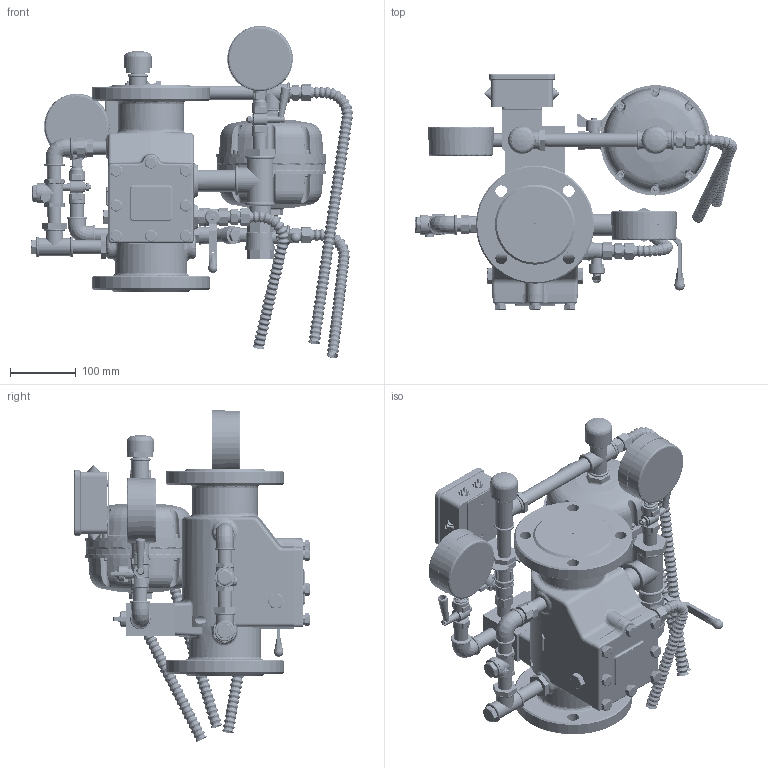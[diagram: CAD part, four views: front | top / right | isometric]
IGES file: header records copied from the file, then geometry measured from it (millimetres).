
Start section: File generated by T-FLEX CAD Version (null)
Global section: file name: 65   .igs; native system: T-FLEX CAD; date: 211013.130446; units: millimetre
Bounding box: 490.86 x 358.3 x 505.59 mm (x, y, z)
Volume: 10035406.2 mm3; surface area: 1150933.3 mm2
Topology: 69 solids, 114 shells, 5625 faces, 13436 edges, 7893 vertices
Faces by surface type: cylinder 1876, plane 1663, bspline 820, cone 564, revolution 563, sphere 139
